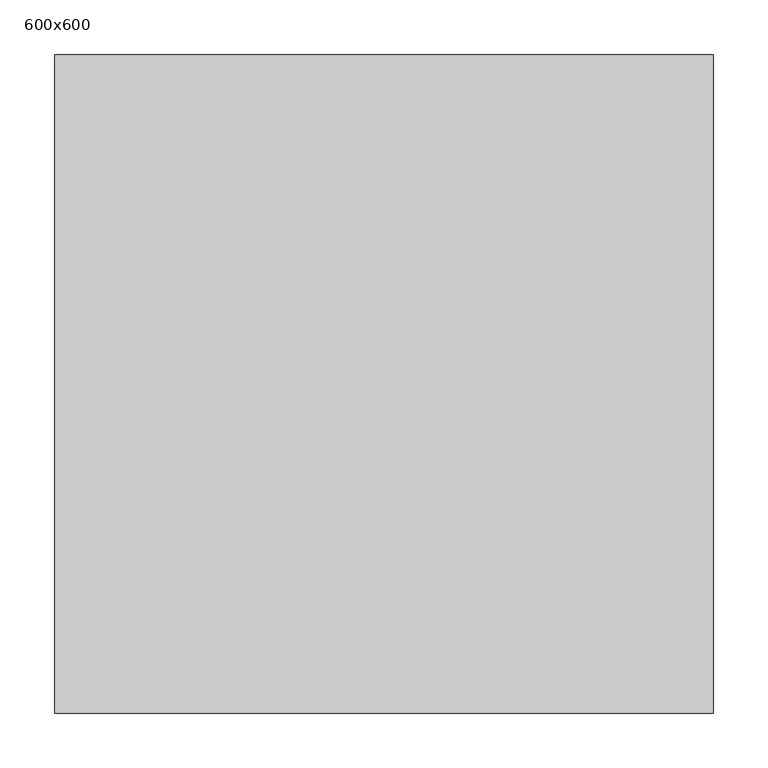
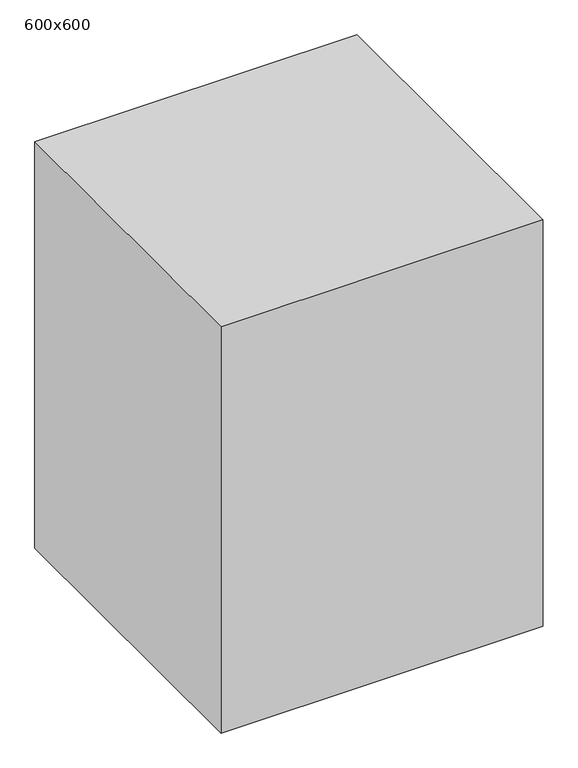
"""IFC4 building model written with IfcOpenShell, lengths in millimetres: proxy geometry, Eq_плита_LEG_v2 : 600x600."""

from ifc_helpers import new_model, si_unit, origin, origin_with_axes, place, context, project, spatial, polyline, outline, extrude, source, transform, mapped, element, save


def proxy_600x600_5c3b2bdc(model_context):
    return source(origin(), model_context, "Body", "SweptSolid", [
        extrude(outline(polyline([(0.0, 600.0), (600.0, 600.0), (600.0, 0.0), (0.0, 0.0), (0.0, 600.0)])), origin_with_axes(), (0.0, 0.0, 1.0), 800.0),
    ])


if __name__ == "__main__":
    model = new_model("IFC4")
    model_context = context("Model", 3, world=origin())
    ifc_project = project(units=[si_unit("LENGTHUNIT", "METRE", prefix="MILLI")], contexts=[model_context])
    site = spatial("IfcSite", under=ifc_project)
    building = spatial("IfcBuilding", under=site)
    placement = place(None, origin())
    proxy_600x600_shape = proxy_600x600_5c3b2bdc(model_context)
    element("IfcBuildingElementProxy", 1, Name="Eq_плита_LEG_v2 : 600x600", ObjectType="Eq_плита_LEG_v2 : 600x600", at=placement, inside=building, context=model_context, shape_type="MappedRepresentation", body=[
        mapped(proxy_600x600_shape, transform((0.0, 0.0, 0.0), x_axis=(1.0, 0.0, 0.0), y_axis=(0.0, 1.0, 0.0), z_axis=(0.0, 0.0, 1.0))),
    ])
    save(model, "model.ifc")
